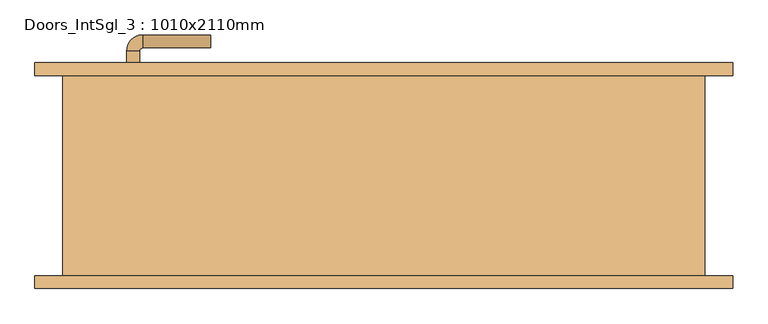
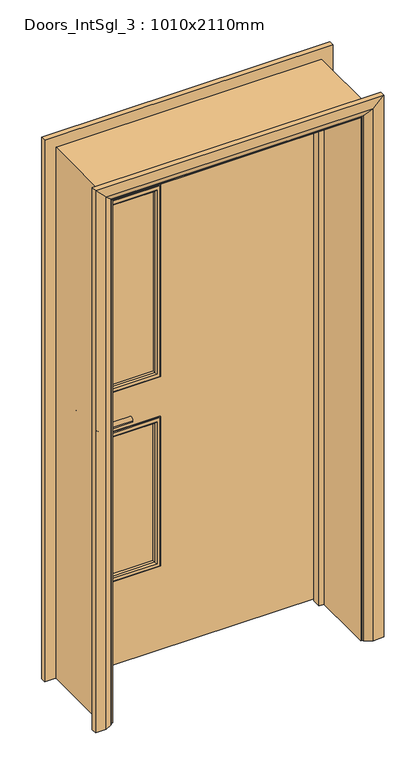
"""IFC4 building model written with IfcOpenShell, lengths in millimetres: door geometry, Doors_IntSgl_3 : 1010x2110mm."""

from ifc_helpers import new_model, si_unit, point, frame, frame_2d, origin, place, context, project, spatial, polyline, circle_curve, ellipse_curve, trimmed, segment, composite_curve, outline, extrude, faceted_brep, source, transform, mapped, element, save
from ifc_brep_helpers import plane_surface, cylinder_surface, revolved_surface, advanced_brep


def doors_intsgl_3_1010x2110mm_dd9fb0c2(model_context):
    return source(origin(), model_context, "Body", "SolidModel", [
        advanced_brep(
        [(-398.0, 109.0, 1000.0), (-378.0, 109.0, 1000.0), (-378.0, 79.0, 1000.0), (-398.0, 79.0, 1000.0), (-373.0, 74.0, 1000.0), (-373.0, 54.0, 1000.0), (-268.0, 54.0, 1000.0), (-268.0, 74.0, 1000.0)],
        [
            (0, 1, circle_curve(frame((-388.0, 109.0, 1000.0), z_axis=(0.0, 1.0, 0.0), x_axis=(1.0, 0.0, 0.0)), 10.0)),
            (1, 0, circle_curve(frame((-388.0, 109.0, 1000.0), z_axis=(0.0, 1.0, 0.0), x_axis=(1.0, 0.0, 0.0)), 10.0)),
            (1, 2),
            (2, 3, circle_curve(frame((-388.0, 79.0, 1000.0), z_axis=(0.0, 1.0, 0.0), x_axis=(1.0, 0.0, 0.0)), 10.0)),
            (3, 0),
            (3, 2, circle_curve(frame((-388.0, 79.0, 1000.0), z_axis=(0.0, 1.0, 0.0), x_axis=(1.0, 0.0, 0.0)), 10.0)),
            (4, 5, circle_curve(frame((-373.0, 64.0, 1000.0), z_axis=(-1.0, 0.0, 0.0), x_axis=(0.0, 1.0, 0.0)), 10.0)),
            (5, 3, circle_curve(frame((-373.0, 79.0, 1000.0), z_axis=(0.0, 0.0, -1.0), x_axis=(-1.0, 0.0, 0.0)), 25.0)),
            (2, 4, circle_curve(frame((-373.0, 79.0, 1000.0), z_axis=(0.0, 0.0, 1.0), x_axis=(-1.0, 0.0, 0.0)), 5.0)),
            (5, 4, circle_curve(frame((-373.0, 64.0, 1000.0), z_axis=(-1.0, 0.0, 0.0), x_axis=(0.0, 1.0, 0.0)), 10.0)),
            (6, 7, circle_curve(frame((-268.0, 64.0, 1000.0), z_axis=(1.0, 0.0, 0.0), x_axis=(0.0, 1.0, 0.0)), 10.0)),
            (7, 6, circle_curve(frame((-268.0, 64.0, 1000.0), z_axis=(1.0, 0.0, 0.0), x_axis=(0.0, 1.0, 0.0)), 10.0)),
            (4, 7),
            (6, 5),
        ],
        [
            plane_surface(frame((-388.0, 109.0, 1000.0), z_axis=(0.0, 1.0, 0.0), x_axis=(0.0, 0.0, 1.0))),
            cylinder_surface(frame((-388.0, 109.0, 1000.0), z_axis=(0.0, 1.0, 0.0), x_axis=(1.0, 0.0, 0.0)), 10.0),
            revolved_surface(trimmed(ellipse_curve(frame((-388.0, 79.0, 1000.0), z_axis=(0.0, -1.0, 0.0), x_axis=(1.0, 0.0, 0.0)), 10.0, 10.0), [point((-398.0, 79.0, 1000.0))], [point((-378.0, 79.0, 1000.0))], True, "CARTESIAN"), (-373.0, 79.0, 1000.0), (0.0, 0.0, -1.0)),
            revolved_surface(trimmed(ellipse_curve(frame((-388.0, 79.0, 1000.0), z_axis=(0.0, -1.0, 0.0), x_axis=(1.0, 0.0, 0.0)), 10.0, 10.0), [point((-378.0, 79.0, 1000.0))], [point((-398.0, 79.0, 1000.0))], True, "CARTESIAN"), (-373.0, 79.0, 1000.0), (0.0, 0.0, -1.0)),
            plane_surface(frame((-268.0, 64.0, 1000.0), z_axis=(1.0, 0.0, 0.0), x_axis=(0.0, 0.0, 1.0))),
            cylinder_surface(frame((-373.0, 64.0, 1000.0), z_axis=(-1.0, 0.0, 0.0), x_axis=(0.0, 1.0, 0.0)), 10.0),
        ],
        [
            (0, [[1, 2]]),
            (1, [[3, 4, 5, -2]]),
            (1, [[-5, 6, -3, -1]]),
            (2, [[7, 8, -4, 9]]),
            (3, [[10, -9, -6, -8]]),
            (4, [[11, 12]]),
            (5, [[13, -11, 14, -7]]),
            (5, [[-14, -12, -13, -10]]),
        ],
    ),
        extrude(outline(composite_curve([segment(trimmed(circle_curve(frame_2d((1000.0, -390.5)), 30.0), [point((1000.0, -420.5))], [point((1000.0, -360.5))], False, "CARTESIAN"), True, "CONTINUOUS"), segment(trimmed(circle_curve(frame_2d((1000.0, -390.5)), 30.0), [point((1000.0, -360.5))], [point((1000.0, -420.5))], False, "CARTESIAN"), True, "CONTINUOUS")], self_intersect=False)), frame((0.0, 109.0, 0.0), z_axis=(0.0, 1.0, 0.0), x_axis=(0.0, 0.0, 1.0)), (0.0, 0.0, 1.0), 8.0),
        advanced_brep(
        [(-398.0, 163.0, 1000.0), (-378.0, 163.0, 1000.0), (-398.0, 193.0, 1000.0), (-378.0, 193.0, 1000.0), (-373.0, 198.0, 1000.0), (-373.0, 218.0, 1000.0), (-268.0, 218.0, 1000.0), (-268.0, 198.0, 1000.0)],
        [
            (0, 1, circle_curve(frame((-388.0, 163.0, 1000.0), z_axis=(0.0, -1.0, 0.0), x_axis=(1.0, 0.0, 0.0)), 10.0)),
            (1, 0, circle_curve(frame((-388.0, 163.0, 1000.0), z_axis=(0.0, -1.0, 0.0), x_axis=(1.0, 0.0, 0.0)), 10.0)),
            (0, 2),
            (2, 3, circle_curve(frame((-388.0, 193.0, 1000.0), z_axis=(0.0, -1.0, 0.0), x_axis=(1.0, 0.0, 0.0)), 10.0)),
            (3, 1),
            (3, 2, circle_curve(frame((-388.0, 193.0, 1000.0), z_axis=(0.0, -1.0, 0.0), x_axis=(1.0, 0.0, 0.0)), 10.0)),
            (4, 3, circle_curve(frame((-373.0, 193.0, 1000.0), z_axis=(0.0, 0.0, 1.0), x_axis=(-1.0, 0.0, 0.0)), 5.0)),
            (2, 5, circle_curve(frame((-373.0, 193.0, 1000.0), z_axis=(0.0, 0.0, -1.0), x_axis=(-1.0, 0.0, 0.0)), 25.0)),
            (5, 4, circle_curve(frame((-373.0, 208.0, 1000.0), z_axis=(-1.0, 0.0, 0.0), x_axis=(0.0, -1.0, 0.0)), 10.0)),
            (4, 5, circle_curve(frame((-373.0, 208.0, 1000.0), z_axis=(-1.0, 0.0, 0.0), x_axis=(0.0, -1.0, 0.0)), 10.0)),
            (6, 7, circle_curve(frame((-268.0, 208.0, 1000.0), z_axis=(1.0, 0.0, 0.0), x_axis=(0.0, -1.0, 0.0)), 10.0)),
            (7, 6, circle_curve(frame((-268.0, 208.0, 1000.0), z_axis=(1.0, 0.0, 0.0), x_axis=(0.0, -1.0, 0.0)), 10.0)),
            (5, 6),
            (7, 4),
        ],
        [
            plane_surface(frame((-388.0, 163.0, 1000.0), z_axis=(0.0, -1.0, 0.0), x_axis=(0.0, 0.0, 1.0))),
            cylinder_surface(frame((-388.0, 163.0, 1000.0), z_axis=(0.0, -1.0, 0.0), x_axis=(1.0, 0.0, 0.0)), 10.0),
            revolved_surface(trimmed(ellipse_curve(frame((-388.0, 193.0, 1000.0), z_axis=(0.0, -1.0, 0.0), x_axis=(1.0, 0.0, 0.0)), 10.0, 10.0), [point((-398.0, 193.0, 1000.0))], [point((-378.0, 193.0, 1000.0))], True, "CARTESIAN"), (-373.0, 193.0, 1000.0), (0.0, 0.0, -1.0)),
            revolved_surface(trimmed(ellipse_curve(frame((-388.0, 193.0, 1000.0), z_axis=(0.0, -1.0, 0.0), x_axis=(1.0, 0.0, 0.0)), 10.0, 10.0), [point((-378.0, 193.0, 1000.0))], [point((-398.0, 193.0, 1000.0))], True, "CARTESIAN"), (-373.0, 193.0, 1000.0), (0.0, 0.0, -1.0)),
            plane_surface(frame((-268.0, 208.0, 1000.0), z_axis=(1.0, 0.0, 0.0), x_axis=(0.0, 0.0, 1.0))),
            cylinder_surface(frame((-373.0, 208.0, 1000.0), z_axis=(-1.0, 0.0, 0.0), x_axis=(0.0, -1.0, 0.0)), 10.0),
        ],
        [
            (0, [[1, 2]]),
            (1, [[-1, 3, 4, 5]]),
            (1, [[-2, -5, 6, -3]]),
            (2, [[7, -4, 8, 9]]),
            (3, [[-8, -6, -7, 10]]),
            (4, [[11, 12]]),
            (5, [[-9, 13, -12, 14]]),
            (5, [[-10, -14, -11, -13]]),
        ],
    ),
        extrude(outline(composite_curve([segment(trimmed(circle_curve(frame_2d((1000.0, -390.5)), 30.0), [point((1000.0, -420.5))], [point((1000.0, -360.5))], False, "CARTESIAN"), True, "CONTINUOUS"), segment(trimmed(circle_curve(frame_2d((1000.0, -390.5)), 30.0), [point((1000.0, -360.5))], [point((1000.0, -420.5))], False, "CARTESIAN"), True, "CONTINUOUS")], self_intersect=False)), frame((0.0, 155.0, 0.0), z_axis=(0.0, 1.0, 0.0), x_axis=(0.0, 0.0, 1.0)), (0.0, 0.0, 1.0), 8.0),
        extrude(outline(polyline([(2068.0, -463.0), (8.0, -463.0), (8.0, 463.0), (2068.0, 463.0), (2068.0, -463.0)]), holes=[polyline([(1843.0, -138.0), (1100.0, -138.0), (1100.0, -338.0), (1843.0, -338.0), (1843.0, -138.0)]), polyline([(925.0, -338.0), (925.0, -138.0), (350.0, -138.0), (350.0, -338.0), (925.0, -338.0)])]), frame((0.0, 117.0, 0.0), z_axis=(0.0, 1.0, 0.0), x_axis=(0.0, 0.0, 1.0)), (0.0, 0.0, 1.0), 38.0),
        advanced_brep(
        [(540.0, 175.0, 0.0), (540.0, 155.0, 0.0), (470.0, 155.0, 0.0), (474.0, 161.0, 0.0), (500.0, 175.0, 0.0), (540.0, 175.0, 2145.0), (540.0, 155.0, 2145.0), (-540.0, 155.0, 2145.0), (-540.0, 155.0, 0.0), (-470.0, 155.0, 0.0), (-470.0, 155.0, 2075.0), (470.0, 155.0, 2075.0), (474.0, 161.0, 2079.0), (500.0, 175.0, 2105.0), (-500.0, 175.0, 2105.0), (-500.0, 175.0, 0.0), (-540.0, 175.0, 0.0), (-540.0, 175.0, 2145.0), (-474.0, 161.0, 0.0), (-474.0, 161.0, 2079.0)],
        [
            (0, 1),
            (1, 2),
            (2, 3, circle_curve(frame((478.0, 154.0, 0.0), z_axis=(0.0, 0.0, -1.0), x_axis=(1.0, 0.0, 0.0)), 8.0622577)),
            (3, 4),
            (4, 0),
            (0, 5),
            (5, 6),
            (6, 1),
            (6, 7),
            (7, 8),
            (8, 9),
            (9, 10),
            (10, 11),
            (11, 2),
            (11, 12, ellipse_curve(frame((478.0, 154.0, 2083.0), z_axis=(0.7071067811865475, 0.0, -0.7071067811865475), x_axis=(-0.7071067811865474, 0.0, -0.7071067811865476)), 11.4017543, 8.0622577)),
            (12, 3),
            (12, 13),
            (13, 4),
            (13, 14),
            (14, 15),
            (15, 16),
            (16, 17),
            (17, 5),
            (7, 17),
            (16, 8),
            (15, 18),
            (18, 9, circle_curve(frame((-478.0, 154.0, 0.0), z_axis=(0.0, 0.0, -1.0), x_axis=(-1.0, 0.0, 0.0)), 8.0622577)),
            (19, 10, ellipse_curve(frame((-478.0, 154.0, 2083.0), z_axis=(-0.7071067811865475, 0.0, -0.7071067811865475), x_axis=(-0.7071067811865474, 0.0, 0.7071067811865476)), 11.4017543, 8.0622577)),
            (18, 19),
            (14, 19),
            (19, 12),
        ],
        [
            plane_surface(frame((470.0, 155.0, 0.0), z_axis=(0.0, 0.0, -1.0), x_axis=(0.0, -1.0, 0.0))),
            plane_surface(frame((540.0, 175.0, 0.0), z_axis=(1.0, 0.0, 0.0), x_axis=(0.0, 0.0, 1.0))),
            plane_surface(frame((540.0, 155.0, 0.0), z_axis=(0.0, -1.0, 0.0), x_axis=(0.0, 0.0, 1.0))),
            cylinder_surface(frame((478.0, 154.0, 0.0), z_axis=(0.0, 0.0, -1.0), x_axis=(1.0, 0.0, 0.0)), 8.0622577),
            plane_surface(frame((474.0, 161.0, 0.0), z_axis=(-0.4740998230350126, 0.8804710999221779, 0.0), x_axis=(0.0, 0.0, 1.0))),
            plane_surface(frame((500.0, 175.0, 0.0), z_axis=(0.0, 1.0, 0.0), x_axis=(0.0, 0.0, 1.0))),
            plane_surface(frame((-540.0, 175.0, 2145.0), z_axis=(-1.0, 0.0, 0.0), x_axis=(0.0, 0.0, -1.0))),
            plane_surface(frame((-470.0, 155.0, 0.0), z_axis=(0.0, 0.0, -1.0), x_axis=(0.0, -1.0, 0.0))),
            cylinder_surface(frame((-478.0, 154.0, 2075.0), z_axis=(0.0, 0.0, 1.0), x_axis=(-1.0, 0.0, 0.0)), 8.0622577),
            plane_surface(frame((-474.0, 161.0, 2079.0), z_axis=(0.4740998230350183, 0.8804710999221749, 0.0), x_axis=(0.0, 0.0, -1.0))),
            plane_surface(frame((540.0, 175.0, 2145.0), z_axis=(0.0, 0.0, 1.0), x_axis=(-1.0, 0.0, 0.0))),
            cylinder_surface(frame((470.0, 154.0, 2083.0), z_axis=(1.0, 0.0, 0.0), x_axis=(0.0, 0.0, 1.0)), 8.0622577),
            plane_surface(frame((474.0, 161.0, 2079.0), z_axis=(0.0, 0.8804710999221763, -0.4740998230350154), x_axis=(-1.0, 0.0, 0.0))),
        ],
        [
            (0, [[1, 2, 3, 4, 5]]),
            (1, [[-1, 6, 7, 8]]),
            (2, [[-2, -8, 9, 10, 11, 12, 13, 14]]),
            (3, [[-3, -14, 15, 16]]),
            (4, [[-4, -16, 17, 18]]),
            (5, [[-5, -18, 19, 20, 21, 22, 23, -6]]),
            (6, [[24, -22, 25, -10]]),
            (7, [[-21, 26, 27, -11, -25]]),
            (8, [[28, -12, -27, 29]]),
            (9, [[30, -29, -26, -20]]),
            (10, [[-7, -23, -24, -9]]),
            (11, [[-15, -13, -28, 31]]),
            (12, [[-17, -31, -30, -19]]),
        ],
    ),
        extrude(outline(polyline([(0.0, -465.0), (0.0, -446.0), (2051.0, -446.0), (2051.0, 446.0), (0.0, 446.0), (0.0, 465.0), (2070.0, 465.0), (2070.0, -465.0), (0.0, -465.0)])), frame((0.0, 83.0, 0.0), z_axis=(0.0, 1.0, 0.0), x_axis=(0.0, 0.0, 1.0)), (0.0, 0.0, 1.0), 32.0),
        advanced_brep(
        [(-540.0, -175.0, 0.0), (-540.0, -155.0, 0.0), (-470.0, -155.0, 0.0), (-474.0, -161.0, 0.0), (-500.0, -175.0, 0.0), (-540.0, -175.0, 2145.0), (-540.0, -155.0, 2145.0), (-470.0, -155.0, 2075.0), (-474.0, -161.0, 2079.0), (-500.0, -175.0, 2105.0), (540.0, -175.0, 0.0), (500.0, -175.0, 0.0), (474.0, -161.0, 0.0), (470.0, -155.0, 0.0), (540.0, -155.0, 0.0), (540.0, -175.0, 2145.0), (500.0, -175.0, 2105.0), (474.0, -161.0, 2079.0), (470.0, -155.0, 2075.0), (540.0, -155.0, 2145.0)],
        [
            (0, 1),
            (1, 2),
            (2, 3, circle_curve(frame((-478.0, -154.0, 0.0), z_axis=(0.0, 0.0, -1.0), x_axis=(-1.0, 0.0, 0.0)), 8.0622577)),
            (3, 4),
            (4, 0),
            (0, 5),
            (5, 6),
            (6, 1),
            (6, 7),
            (7, 2),
            (7, 8, ellipse_curve(frame((-478.0, -154.0, 2083.0), z_axis=(-0.7071067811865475, 0.0, -0.7071067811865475), x_axis=(0.7071067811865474, 0.0, -0.7071067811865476)), 11.4017543, 8.0622577)),
            (8, 3),
            (8, 9),
            (9, 4),
            (9, 5),
            (10, 11),
            (11, 12),
            (12, 13, circle_curve(frame((478.0, -154.0, 0.0), z_axis=(0.0, 0.0, -1.0), x_axis=(1.0, 0.0, 0.0)), 8.0622577)),
            (13, 14),
            (14, 10),
            (15, 16),
            (16, 11),
            (10, 15),
            (16, 17),
            (17, 12),
            (17, 18, ellipse_curve(frame((478.0, -154.0, 2083.0), z_axis=(0.7071067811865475, 0.0, -0.7071067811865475), x_axis=(0.7071067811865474, 0.0, 0.7071067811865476)), 11.4017543, 8.0622577)),
            (18, 13),
            (18, 19),
            (19, 14),
            (19, 15),
            (5, 15),
            (19, 6),
            (18, 7),
            (17, 8),
            (16, 9),
        ],
        [
            plane_surface(frame((-470.0, -227.8010989, 0.0), z_axis=(0.0, 0.0, -1.0), x_axis=(1.0, 0.0, 0.0))),
            plane_surface(frame((-540.0, -175.0, 0.0), z_axis=(-1.0, 0.0, 0.0), x_axis=(0.0, 0.0, 1.0))),
            plane_surface(frame((-540.0, -155.0, 0.0), z_axis=(0.0, 1.0, 0.0), x_axis=(0.0, 0.0, 1.0))),
            cylinder_surface(frame((-478.0, -154.0, 0.0), z_axis=(0.0, 0.0, -1.0), x_axis=(-1.0, 0.0, 0.0)), 8.0622577),
            plane_surface(frame((-474.0, -161.0, 0.0), z_axis=(0.4740998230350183, -0.8804710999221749, 0.0), x_axis=(0.0, 0.0, 1.0))),
            plane_surface(frame((-500.0, -175.0, 0.0), z_axis=(0.0, -1.0, 0.0), x_axis=(0.0, 0.0, 1.0))),
            plane_surface(frame((470.0, -227.8010989, 0.0), z_axis=(0.0, 0.0, -1.0), x_axis=(-1.0, 0.0, 0.0))),
            plane_surface(frame((500.0, -175.0, 2105.0), z_axis=(0.0, -1.0, 0.0), x_axis=(0.0, 0.0, -1.0))),
            plane_surface(frame((474.0, -161.0, 2079.0), z_axis=(-0.4740998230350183, -0.8804710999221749, 0.0), x_axis=(0.0, 0.0, -1.0))),
            cylinder_surface(frame((478.0, -154.0, 2075.0), z_axis=(0.0, 0.0, 1.0), x_axis=(1.0, 0.0, 0.0)), 8.0622577),
            plane_surface(frame((540.0, -155.0, 2145.0), z_axis=(0.0, 1.0, 0.0), x_axis=(0.0, 0.0, -1.0))),
            plane_surface(frame((540.0, -175.0, 2145.0), z_axis=(1.0, 0.0, 0.0), x_axis=(0.0, 0.0, -1.0))),
            plane_surface(frame((-540.0, -175.0, 2145.0), z_axis=(0.0, 0.0, 1.0), x_axis=(1.0, 0.0, 0.0))),
            plane_surface(frame((-540.0, -155.0, 2145.0), z_axis=(0.0, 1.0, 0.0), x_axis=(1.0, 0.0, 0.0))),
            cylinder_surface(frame((-470.0, -154.0, 2083.0), z_axis=(-1.0, 0.0, 0.0), x_axis=(0.0, 0.0, 1.0)), 8.0622577),
            plane_surface(frame((-474.0, -161.0, 2079.0), z_axis=(0.0, -0.8804710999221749, -0.4740998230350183), x_axis=(1.0, 0.0, 0.0))),
            plane_surface(frame((-500.0, -175.0, 2105.0), z_axis=(0.0, -1.0, 0.0), x_axis=(1.0, 0.0, 0.0))),
        ],
        [
            (0, [[1, 2, 3, 4, 5]]),
            (1, [[-1, 6, 7, 8]]),
            (2, [[-2, -8, 9, 10]]),
            (3, [[-3, -10, 11, 12]]),
            (4, [[-4, -12, 13, 14]]),
            (5, [[-5, -14, 15, -6]]),
            (6, [[16, 17, 18, 19, 20]]),
            (7, [[21, 22, -16, 23]]),
            (8, [[24, 25, -17, -22]]),
            (9, [[26, 27, -18, -25]]),
            (10, [[28, 29, -19, -27]]),
            (11, [[30, -23, -20, -29]]),
            (12, [[-7, 31, -30, 32]]),
            (13, [[-9, -32, -28, 33]]),
            (14, [[-11, -33, -26, 34]]),
            (15, [[-13, -34, -24, 35]]),
            (16, [[-15, -35, -21, -31]]),
        ],
    ),
        faceted_brep([(-465.0, 155.0, 0.0), (-465.0, -155.0, 0.0), (-497.0, -155.0, 0.0), (-497.0, 155.0, 0.0), (-465.0, 155.0, 2070.0), (-465.0, -155.0, 2070.0), (-497.0, -155.0, 2102.0), (-497.0, 155.0, 2102.0), (465.0, 155.0, 0.0), (497.0, 155.0, 0.0), (497.0, -155.0, 0.0), (465.0, -155.0, 0.0), (465.0, 155.0, 2070.0), (497.0, 155.0, 2102.0), (497.0, -155.0, 2102.0), (465.0, -155.0, 2070.0)], [[[0, 1, 2, 3]], [[1, 0, 4, 5]], [[2, 1, 5, 6]], [[3, 2, 6, 7]], [[0, 3, 7, 4]], [[8, 9, 10, 11]], [[12, 13, 9, 8]], [[13, 14, 10, 9]], [[14, 15, 11, 10]], [[15, 12, 8, 11]], [[5, 4, 12, 15]], [[6, 5, 15, 14]], [[7, 6, 14, 13]], [[4, 7, 13, 12]]]),
        advanced_brep(
        [(-138.0, 127.0, 925.0), (-138.0, 117.0, 925.0), (-138.0, 117.0, 350.0), (-138.0, 127.0, 350.0), (-150.0, 116.0, 913.0), (-150.0, 127.0, 913.0), (-150.0, 127.0, 362.0), (-150.0, 116.0, 362.0), (-145.0, 111.0, 918.0), (-145.0, 111.0, 357.0), (-130.0, 113.0, 933.0), (-132.0, 111.0, 931.0), (-132.0, 111.0, 344.0), (-130.0, 113.0, 342.0), (-130.0, 117.0, 933.0), (-130.0, 117.0, 342.0), (-338.0, 117.0, 350.0), (-338.0, 127.0, 350.0), (-326.0, 127.0, 362.0), (-326.0, 116.0, 362.0), (-331.0, 111.0, 357.0), (-344.0, 111.0, 344.0), (-346.0, 113.0, 342.0), (-346.0, 117.0, 342.0), (-338.0, 117.0, 925.0), (-338.0, 127.0, 925.0), (-326.0, 127.0, 913.0), (-326.0, 116.0, 913.0), (-331.0, 111.0, 918.0), (-344.0, 111.0, 931.0), (-346.0, 113.0, 933.0), (-346.0, 117.0, 933.0)],
        [
            (0, 1),
            (1, 2),
            (2, 3),
            (3, 0),
            (4, 5),
            (5, 6),
            (6, 7),
            (7, 4),
            (8, 4, ellipse_curve(frame((-145.0, 116.0, 918.0), z_axis=(0.7071067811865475, 0.0, -0.7071067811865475), x_axis=(0.7071067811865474, 0.0, 0.7071067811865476)), 7.0710678, 5.0)),
            (7, 9, ellipse_curve(frame((-145.0, 116.0, 357.0), z_axis=(0.7071067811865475, 0.0, 0.7071067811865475), x_axis=(-0.7071067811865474, 0.0, 0.7071067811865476)), 7.0710678, 5.0)),
            (9, 8),
            (10, 11, ellipse_curve(frame((-132.0, 113.0, 931.0), z_axis=(0.7071067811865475, 0.0, -0.7071067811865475), x_axis=(0.7071067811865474, 0.0, 0.7071067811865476)), 2.8284271, 2.0)),
            (11, 12),
            (12, 13, ellipse_curve(frame((-132.0, 113.0, 344.0), z_axis=(0.7071067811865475, 0.0, 0.7071067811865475), x_axis=(-0.7071067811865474, 0.0, 0.7071067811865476)), 2.8284271, 2.0)),
            (13, 10),
            (14, 10),
            (13, 15),
            (15, 14),
            (2, 16),
            (16, 17),
            (17, 3),
            (6, 18),
            (18, 19),
            (19, 7),
            (19, 20, ellipse_curve(frame((-331.0, 116.0, 357.0), z_axis=(0.7071067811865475, 0.0, -0.7071067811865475), x_axis=(0.7071067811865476, 0.0, 0.7071067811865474)), 7.0710678, 5.0)),
            (20, 9),
            (12, 21),
            (21, 22, ellipse_curve(frame((-344.0, 113.0, 344.0), z_axis=(0.7071067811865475, 0.0, -0.7071067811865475), x_axis=(0.7071067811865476, 0.0, 0.7071067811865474)), 2.8284271, 2.0)),
            (22, 13),
            (22, 23),
            (23, 15),
            (16, 24),
            (24, 25),
            (25, 17),
            (18, 26),
            (26, 27),
            (27, 19),
            (27, 28, ellipse_curve(frame((-331.0, 116.0, 918.0), z_axis=(-0.7071067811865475, 0.0, -0.7071067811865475), x_axis=(0.7071067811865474, 0.0, -0.7071067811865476)), 7.0710678, 5.0)),
            (28, 20),
            (21, 29),
            (29, 30, ellipse_curve(frame((-344.0, 113.0, 931.0), z_axis=(-0.7071067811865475, 0.0, -0.7071067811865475), x_axis=(0.7071067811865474, 0.0, -0.7071067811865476)), 2.8284271, 2.0)),
            (30, 22),
            (30, 31),
            (31, 23),
            (31, 14),
            (1, 24),
            (0, 25),
            (5, 26),
            (4, 27),
            (8, 28),
            (11, 29),
            (10, 30),
        ],
        [
            plane_surface(frame((-138.0, 117.0, 925.0), z_axis=(1.0, 0.0, 0.0), x_axis=(0.0, 0.0, -1.0))),
            plane_surface(frame((-150.0, 127.0, 913.0), z_axis=(-1.0, 0.0, 0.0), x_axis=(0.0, 0.0, -1.0))),
            cylinder_surface(frame((-145.0, 116.0, 925.0), z_axis=(0.0, 0.0, 1.0), x_axis=(1.0, 0.0, 0.0)), 5.0),
            cylinder_surface(frame((-132.0, 113.0, 925.0), z_axis=(0.0, 0.0, 1.0), x_axis=(1.0, 0.0, 0.0)), 2.0),
            plane_surface(frame((-130.0, 113.0, 933.0), z_axis=(1.0, 0.0, 0.0), x_axis=(0.0, 0.0, -1.0))),
            plane_surface(frame((-138.0, 117.0, 350.0), z_axis=(0.0, 0.0, -1.0), x_axis=(-1.0, 0.0, 0.0))),
            plane_surface(frame((-150.0, 127.0, 362.0), z_axis=(0.0, 0.0, 1.0), x_axis=(-1.0, 0.0, 0.0))),
            cylinder_surface(frame((-138.0, 116.0, 357.0), z_axis=(1.0, 0.0, 0.0), x_axis=(0.0, 0.0, -1.0)), 5.0),
            cylinder_surface(frame((-138.0, 113.0, 344.0), z_axis=(1.0, 0.0, 0.0), x_axis=(0.0, 0.0, -1.0)), 2.0),
            plane_surface(frame((-130.0, 113.0, 342.0), z_axis=(0.0, 0.0, -1.0), x_axis=(-1.0, 0.0, 0.0))),
            plane_surface(frame((-338.0, 117.0, 350.0), z_axis=(-1.0, 0.0, 0.0), x_axis=(0.0, 0.0, 1.0))),
            plane_surface(frame((-326.0, 127.0, 362.0), z_axis=(1.0, 0.0, 0.0), x_axis=(0.0, 0.0, 1.0))),
            cylinder_surface(frame((-331.0, 116.0, 350.0), z_axis=(0.0, 0.0, -1.0), x_axis=(-1.0, 0.0, 0.0)), 5.0),
            cylinder_surface(frame((-344.0, 113.0, 350.0), z_axis=(0.0, 0.0, -1.0), x_axis=(-1.0, 0.0, 0.0)), 2.0),
            plane_surface(frame((-346.0, 113.0, 342.0), z_axis=(-1.0, 0.0, 0.0), x_axis=(0.0, 0.0, 1.0))),
            plane_surface(frame((-346.0, 117.0, 933.0), z_axis=(0.0, 1.0, 0.0), x_axis=(1.0, 0.0, 0.0))),
            plane_surface(frame((-338.0, 117.0, 925.0), z_axis=(0.0, 0.0, 1.0), x_axis=(1.0, 0.0, 0.0))),
            plane_surface(frame((-338.0, 127.0, 925.0), z_axis=(0.0, 1.0, 0.0), x_axis=(1.0, 0.0, 0.0))),
            plane_surface(frame((-326.0, 127.0, 913.0), z_axis=(0.0, 0.0, -1.0), x_axis=(1.0, 0.0, 0.0))),
            cylinder_surface(frame((-338.0, 116.0, 918.0), z_axis=(-1.0, 0.0, 0.0), x_axis=(0.0, 0.0, 1.0)), 5.0),
            plane_surface(frame((-331.0, 111.0, 918.0), z_axis=(0.0, -1.0, 0.0), x_axis=(1.0, 0.0, 0.0))),
            cylinder_surface(frame((-338.0, 113.0, 931.0), z_axis=(-1.0, 0.0, 0.0), x_axis=(0.0, 0.0, 1.0)), 2.0),
            plane_surface(frame((-346.0, 113.0, 933.0), z_axis=(0.0, 0.0, 1.0), x_axis=(1.0, 0.0, 0.0))),
        ],
        [
            (0, [[1, 2, 3, 4]]),
            (1, [[5, 6, 7, 8]]),
            (2, [[9, -8, 10, 11]]),
            (3, [[12, 13, 14, 15]]),
            (4, [[16, -15, 17, 18]]),
            (5, [[-3, 19, 20, 21]]),
            (6, [[-7, 22, 23, 24]]),
            (7, [[-10, -24, 25, 26]]),
            (8, [[-14, 27, 28, 29]]),
            (9, [[-17, -29, 30, 31]]),
            (10, [[-20, 32, 33, 34]]),
            (11, [[-23, 35, 36, 37]]),
            (12, [[-25, -37, 38, 39]]),
            (13, [[-28, 40, 41, 42]]),
            (14, [[-30, -42, 43, 44]]),
            (15, [[-31, -44, 45, -18], [46, -32, -19, -2]]),
            (16, [[-33, -46, -1, 47]]),
            (17, [[-21, -34, -47, -4], [48, -35, -22, -6]]),
            (18, [[-36, -48, -5, 49]]),
            (19, [[-38, -49, -9, 50]]),
            (20, [[51, -40, -27, -13], [-26, -39, -50, -11]]),
            (21, [[-41, -51, -12, 52]]),
            (22, [[-43, -52, -16, -45]]),
        ],
    ),
        advanced_brep(
        [(-338.0, 145.0, 925.0), (-338.0, 155.0, 925.0), (-338.0, 155.0, 350.0), (-338.0, 145.0, 350.0), (-326.0, 156.0, 913.0), (-326.0, 145.0, 913.0), (-326.0, 145.0, 362.0), (-326.0, 156.0, 362.0), (-331.0, 161.0, 918.0), (-331.0, 161.0, 357.0), (-346.0, 159.0, 933.0), (-344.0, 161.0, 931.0), (-344.0, 161.0, 344.0), (-346.0, 159.0, 342.0), (-346.0, 155.0, 933.0), (-346.0, 155.0, 342.0), (-138.0, 155.0, 350.0), (-138.0, 145.0, 350.0), (-150.0, 145.0, 362.0), (-150.0, 156.0, 362.0), (-145.0, 161.0, 357.0), (-132.0, 161.0, 344.0), (-130.0, 159.0, 342.0), (-130.0, 155.0, 342.0), (-138.0, 155.0, 925.0), (-138.0, 145.0, 925.0), (-150.0, 145.0, 913.0), (-150.0, 156.0, 913.0), (-145.0, 161.0, 918.0), (-132.0, 161.0, 931.0), (-130.0, 159.0, 933.0), (-130.0, 155.0, 933.0)],
        [
            (0, 1),
            (1, 2),
            (2, 3),
            (3, 0),
            (4, 5),
            (5, 6),
            (6, 7),
            (7, 4),
            (8, 4, ellipse_curve(frame((-331.0, 156.0, 918.0), z_axis=(-0.7071067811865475, 0.0, -0.7071067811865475), x_axis=(-0.7071067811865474, 0.0, 0.7071067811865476)), 7.0710678, 5.0)),
            (7, 9, ellipse_curve(frame((-331.0, 156.0, 357.0), z_axis=(-0.7071067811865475, 0.0, 0.7071067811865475), x_axis=(0.7071067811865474, 0.0, 0.7071067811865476)), 7.0710678, 5.0)),
            (9, 8),
            (10, 11, ellipse_curve(frame((-344.0, 159.0, 931.0), z_axis=(-0.7071067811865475, 0.0, -0.7071067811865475), x_axis=(-0.7071067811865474, 0.0, 0.7071067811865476)), 2.8284271, 2.0)),
            (11, 12),
            (12, 13, ellipse_curve(frame((-344.0, 159.0, 344.0), z_axis=(-0.7071067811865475, 0.0, 0.7071067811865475), x_axis=(0.7071067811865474, 0.0, 0.7071067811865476)), 2.8284271, 2.0)),
            (13, 10),
            (14, 10),
            (13, 15),
            (15, 14),
            (2, 16),
            (16, 17),
            (17, 3),
            (6, 18),
            (18, 19),
            (19, 7),
            (19, 20, ellipse_curve(frame((-145.0, 156.0, 357.0), z_axis=(-0.7071067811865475, 0.0, -0.7071067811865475), x_axis=(-0.7071067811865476, 0.0, 0.7071067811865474)), 7.0710678, 5.0)),
            (20, 9),
            (12, 21),
            (21, 22, ellipse_curve(frame((-132.0, 159.0, 344.0), z_axis=(-0.7071067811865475, 0.0, -0.7071067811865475), x_axis=(-0.7071067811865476, 0.0, 0.7071067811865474)), 2.8284271, 2.0)),
            (22, 13),
            (22, 23),
            (23, 15),
            (16, 24),
            (24, 25),
            (25, 17),
            (18, 26),
            (26, 27),
            (27, 19),
            (27, 28, ellipse_curve(frame((-145.0, 156.0, 918.0), z_axis=(0.7071067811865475, 0.0, -0.7071067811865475), x_axis=(-0.7071067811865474, 0.0, -0.7071067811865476)), 7.0710678, 5.0)),
            (28, 20),
            (21, 29),
            (29, 30, ellipse_curve(frame((-132.0, 159.0, 931.0), z_axis=(0.7071067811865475, 0.0, -0.7071067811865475), x_axis=(-0.7071067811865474, 0.0, -0.7071067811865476)), 2.8284271, 2.0)),
            (30, 22),
            (30, 31),
            (31, 23),
            (31, 14),
            (1, 24),
            (0, 25),
            (5, 26),
            (4, 27),
            (8, 28),
            (11, 29),
            (10, 30),
        ],
        [
            plane_surface(frame((-338.0, 155.0, 925.0), z_axis=(-1.0, 0.0, 0.0), x_axis=(0.0, 0.0, -1.0))),
            plane_surface(frame((-326.0, 145.0, 913.0), z_axis=(1.0, 0.0, 0.0), x_axis=(0.0, 0.0, -1.0))),
            cylinder_surface(frame((-331.0, 156.0, 925.0), z_axis=(0.0, 0.0, 1.0), x_axis=(-1.0, 0.0, 0.0)), 5.0),
            cylinder_surface(frame((-344.0, 159.0, 925.0), z_axis=(0.0, 0.0, 1.0), x_axis=(-1.0, 0.0, 0.0)), 2.0),
            plane_surface(frame((-346.0, 159.0, 933.0), z_axis=(-1.0, 0.0, 0.0), x_axis=(0.0, 0.0, -1.0))),
            plane_surface(frame((-338.0, 155.0, 350.0), z_axis=(0.0, 0.0, -1.0), x_axis=(1.0, 0.0, 0.0))),
            plane_surface(frame((-326.0, 145.0, 362.0), z_axis=(0.0, 0.0, 1.0), x_axis=(1.0, 0.0, 0.0))),
            cylinder_surface(frame((-338.0, 156.0, 357.0), z_axis=(-1.0, 0.0, 0.0), x_axis=(0.0, 0.0, -1.0)), 5.0),
            cylinder_surface(frame((-338.0, 159.0, 344.0), z_axis=(-1.0, 0.0, 0.0), x_axis=(0.0, 0.0, -1.0)), 2.0),
            plane_surface(frame((-346.0, 159.0, 342.0), z_axis=(0.0, 0.0, -1.0), x_axis=(1.0, 0.0, 0.0))),
            plane_surface(frame((-138.0, 155.0, 350.0), z_axis=(1.0, 0.0, 0.0), x_axis=(0.0, 0.0, 1.0))),
            plane_surface(frame((-150.0, 145.0, 362.0), z_axis=(-1.0, 0.0, 0.0), x_axis=(0.0, 0.0, 1.0))),
            cylinder_surface(frame((-145.0, 156.0, 350.0), z_axis=(0.0, 0.0, -1.0), x_axis=(1.0, 0.0, 0.0)), 5.0),
            cylinder_surface(frame((-132.0, 159.0, 350.0), z_axis=(0.0, 0.0, -1.0), x_axis=(1.0, 0.0, 0.0)), 2.0),
            plane_surface(frame((-130.0, 159.0, 342.0), z_axis=(1.0, 0.0, 0.0), x_axis=(0.0, 0.0, 1.0))),
            plane_surface(frame((-130.0, 155.0, 933.0), z_axis=(0.0, -1.0, 0.0), x_axis=(-1.0, 0.0, 0.0))),
            plane_surface(frame((-138.0, 155.0, 925.0), z_axis=(0.0, 0.0, 1.0), x_axis=(-1.0, 0.0, 0.0))),
            plane_surface(frame((-138.0, 145.0, 925.0), z_axis=(0.0, -1.0, 0.0), x_axis=(-1.0, 0.0, 0.0))),
            plane_surface(frame((-150.0, 145.0, 913.0), z_axis=(0.0, 0.0, -1.0), x_axis=(-1.0, 0.0, 0.0))),
            cylinder_surface(frame((-138.0, 156.0, 918.0), z_axis=(1.0, 0.0, 0.0), x_axis=(0.0, 0.0, 1.0)), 5.0),
            plane_surface(frame((-145.0, 161.0, 918.0), z_axis=(0.0, 1.0, 0.0), x_axis=(-1.0, 0.0, 0.0))),
            cylinder_surface(frame((-138.0, 159.0, 931.0), z_axis=(1.0, 0.0, 0.0), x_axis=(0.0, 0.0, 1.0)), 2.0),
            plane_surface(frame((-130.0, 159.0, 933.0), z_axis=(0.0, 0.0, 1.0), x_axis=(-1.0, 0.0, 0.0))),
        ],
        [
            (0, [[1, 2, 3, 4]]),
            (1, [[5, 6, 7, 8]]),
            (2, [[9, -8, 10, 11]]),
            (3, [[12, 13, 14, 15]]),
            (4, [[16, -15, 17, 18]]),
            (5, [[-3, 19, 20, 21]]),
            (6, [[-7, 22, 23, 24]]),
            (7, [[-10, -24, 25, 26]]),
            (8, [[-14, 27, 28, 29]]),
            (9, [[-17, -29, 30, 31]]),
            (10, [[-20, 32, 33, 34]]),
            (11, [[-23, 35, 36, 37]]),
            (12, [[-25, -37, 38, 39]]),
            (13, [[-28, 40, 41, 42]]),
            (14, [[-30, -42, 43, 44]]),
            (15, [[-31, -44, 45, -18], [46, -32, -19, -2]]),
            (16, [[-33, -46, -1, 47]]),
            (17, [[-21, -34, -47, -4], [48, -35, -22, -6]]),
            (18, [[-36, -48, -5, 49]]),
            (19, [[-38, -49, -9, 50]]),
            (20, [[51, -40, -27, -13], [-26, -39, -50, -11]]),
            (21, [[-41, -51, -12, 52]]),
            (22, [[-43, -52, -16, -45]]),
        ],
    ),
        extrude(outline(polyline([(-338.0, 145.0), (-138.0, 145.0), (-138.0, 127.0), (-338.0, 127.0), (-338.0, 145.0)])), frame((0.0, 0.0, 1100.0), z_axis=(0.0, 0.0, 1.0), x_axis=(1.0, 0.0, 0.0)), (0.0, 0.0, 1.0), 743.0),
        extrude(outline(polyline([(-338.0, 145.0), (-138.0, 145.0), (-138.0, 127.0), (-338.0, 127.0), (-338.0, 145.0)])), frame((0.0, 0.0, 350.0), z_axis=(0.0, 0.0, 1.0), x_axis=(1.0, 0.0, 0.0)), (0.0, 0.0, 1.0), 575.0),
        advanced_brep(
        [(-138.0, 127.0, 1843.0), (-138.0, 117.0, 1843.0), (-138.0, 117.0, 1100.0), (-138.0, 127.0, 1100.0), (-150.0, 116.0, 1831.0), (-150.0, 127.0, 1831.0), (-150.0, 127.0, 1112.0), (-150.0, 116.0, 1112.0), (-145.0, 111.0, 1836.0), (-145.0, 111.0, 1107.0), (-130.0, 113.0, 1851.0), (-132.0, 111.0, 1849.0), (-132.0, 111.0, 1094.0), (-130.0, 113.0, 1092.0), (-130.0, 117.0, 1851.0), (-130.0, 117.0, 1092.0), (-338.0, 117.0, 1100.0), (-338.0, 127.0, 1100.0), (-326.0, 127.0, 1112.0), (-326.0, 116.0, 1112.0), (-331.0, 111.0, 1107.0), (-344.0, 111.0, 1094.0), (-346.0, 113.0, 1092.0), (-346.0, 117.0, 1092.0), (-338.0, 117.0, 1843.0), (-338.0, 127.0, 1843.0), (-326.0, 127.0, 1831.0), (-326.0, 116.0, 1831.0), (-331.0, 111.0, 1836.0), (-344.0, 111.0, 1849.0), (-346.0, 113.0, 1851.0), (-346.0, 117.0, 1851.0)],
        [
            (0, 1),
            (1, 2),
            (2, 3),
            (3, 0),
            (4, 5),
            (5, 6),
            (6, 7),
            (7, 4),
            (8, 4, ellipse_curve(frame((-145.0, 116.0, 1836.0), z_axis=(0.7071067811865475, 0.0, -0.7071067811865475), x_axis=(0.7071067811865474, 0.0, 0.7071067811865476)), 7.0710678, 5.0)),
            (7, 9, ellipse_curve(frame((-145.0, 116.0, 1107.0), z_axis=(0.7071067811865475, 0.0, 0.7071067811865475), x_axis=(-0.7071067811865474, 0.0, 0.7071067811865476)), 7.0710678, 5.0)),
            (9, 8),
            (10, 11, ellipse_curve(frame((-132.0, 113.0, 1849.0), z_axis=(0.7071067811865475, 0.0, -0.7071067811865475), x_axis=(0.7071067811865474, 0.0, 0.7071067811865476)), 2.8284271, 2.0)),
            (11, 12),
            (12, 13, ellipse_curve(frame((-132.0, 113.0, 1094.0), z_axis=(0.7071067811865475, 0.0, 0.7071067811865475), x_axis=(-0.7071067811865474, 0.0, 0.7071067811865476)), 2.8284271, 2.0)),
            (13, 10),
            (14, 10),
            (13, 15),
            (15, 14),
            (2, 16),
            (16, 17),
            (17, 3),
            (6, 18),
            (18, 19),
            (19, 7),
            (19, 20, ellipse_curve(frame((-331.0, 116.0, 1107.0), z_axis=(0.7071067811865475, 0.0, -0.7071067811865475), x_axis=(0.7071067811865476, 0.0, 0.7071067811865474)), 7.0710678, 5.0)),
            (20, 9),
            (12, 21),
            (21, 22, ellipse_curve(frame((-344.0, 113.0, 1094.0), z_axis=(0.7071067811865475, 0.0, -0.7071067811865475), x_axis=(0.7071067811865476, 0.0, 0.7071067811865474)), 2.8284271, 2.0)),
            (22, 13),
            (22, 23),
            (23, 15),
            (16, 24),
            (24, 25),
            (25, 17),
            (18, 26),
            (26, 27),
            (27, 19),
            (27, 28, ellipse_curve(frame((-331.0, 116.0, 1836.0), z_axis=(-0.7071067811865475, 0.0, -0.7071067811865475), x_axis=(0.7071067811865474, 0.0, -0.7071067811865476)), 7.0710678, 5.0)),
            (28, 20),
            (21, 29),
            (29, 30, ellipse_curve(frame((-344.0, 113.0, 1849.0), z_axis=(-0.7071067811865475, 0.0, -0.7071067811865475), x_axis=(0.7071067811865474, 0.0, -0.7071067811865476)), 2.8284271, 2.0)),
            (30, 22),
            (30, 31),
            (31, 23),
            (31, 14),
            (1, 24),
            (0, 25),
            (5, 26),
            (4, 27),
            (8, 28),
            (11, 29),
            (10, 30),
        ],
        [
            plane_surface(frame((-138.0, 117.0, 1843.0), z_axis=(1.0, 0.0, 0.0), x_axis=(0.0, 0.0, -1.0))),
            plane_surface(frame((-150.0, 127.0, 1831.0), z_axis=(-1.0, 0.0, 0.0), x_axis=(0.0, 0.0, -1.0))),
            cylinder_surface(frame((-145.0, 116.0, 1843.0), z_axis=(0.0, 0.0, 1.0), x_axis=(1.0, 0.0, 0.0)), 5.0),
            cylinder_surface(frame((-132.0, 113.0, 1843.0), z_axis=(0.0, 0.0, 1.0), x_axis=(1.0, 0.0, 0.0)), 2.0),
            plane_surface(frame((-130.0, 113.0, 1851.0), z_axis=(1.0, 0.0, 0.0), x_axis=(0.0, 0.0, -1.0))),
            plane_surface(frame((-138.0, 117.0, 1100.0), z_axis=(0.0, 0.0, -1.0), x_axis=(-1.0, 0.0, 0.0))),
            plane_surface(frame((-150.0, 127.0, 1112.0), z_axis=(0.0, 0.0, 1.0), x_axis=(-1.0, 0.0, 0.0))),
            cylinder_surface(frame((-138.0, 116.0, 1107.0), z_axis=(1.0, 0.0, 0.0), x_axis=(0.0, 0.0, -1.0)), 5.0),
            cylinder_surface(frame((-138.0, 113.0, 1094.0), z_axis=(1.0, 0.0, 0.0), x_axis=(0.0, 0.0, -1.0)), 2.0),
            plane_surface(frame((-130.0, 113.0, 1092.0), z_axis=(0.0, 0.0, -1.0), x_axis=(-1.0, 0.0, 0.0))),
            plane_surface(frame((-338.0, 117.0, 1100.0), z_axis=(-1.0, 0.0, 0.0), x_axis=(0.0, 0.0, 1.0))),
            plane_surface(frame((-326.0, 127.0, 1112.0), z_axis=(1.0, 0.0, 0.0), x_axis=(0.0, 0.0, 1.0))),
            cylinder_surface(frame((-331.0, 116.0, 1100.0), z_axis=(0.0, 0.0, -1.0), x_axis=(-1.0, 0.0, 0.0)), 5.0),
            cylinder_surface(frame((-344.0, 113.0, 1100.0), z_axis=(0.0, 0.0, -1.0), x_axis=(-1.0, 0.0, 0.0)), 2.0),
            plane_surface(frame((-346.0, 113.0, 1092.0), z_axis=(-1.0, 0.0, 0.0), x_axis=(0.0, 0.0, 1.0))),
            plane_surface(frame((-346.0, 117.0, 1851.0), z_axis=(0.0, 1.0, 0.0), x_axis=(1.0, 0.0, 0.0))),
            plane_surface(frame((-338.0, 117.0, 1843.0), z_axis=(0.0, 0.0, 1.0), x_axis=(1.0, 0.0, 0.0))),
            plane_surface(frame((-338.0, 127.0, 1843.0), z_axis=(0.0, 1.0, 0.0), x_axis=(1.0, 0.0, 0.0))),
            plane_surface(frame((-326.0, 127.0, 1831.0), z_axis=(0.0, 0.0, -1.0), x_axis=(1.0, 0.0, 0.0))),
            cylinder_surface(frame((-338.0, 116.0, 1836.0), z_axis=(-1.0, 0.0, 0.0), x_axis=(0.0, 0.0, 1.0)), 5.0),
            plane_surface(frame((-331.0, 111.0, 1836.0), z_axis=(0.0, -1.0, 0.0), x_axis=(1.0, 0.0, 0.0))),
            cylinder_surface(frame((-338.0, 113.0, 1849.0), z_axis=(-1.0, 0.0, 0.0), x_axis=(0.0, 0.0, 1.0)), 2.0),
            plane_surface(frame((-346.0, 113.0, 1851.0), z_axis=(0.0, 0.0, 1.0), x_axis=(1.0, 0.0, 0.0))),
        ],
        [
            (0, [[1, 2, 3, 4]]),
            (1, [[5, 6, 7, 8]]),
            (2, [[9, -8, 10, 11]]),
            (3, [[12, 13, 14, 15]]),
            (4, [[16, -15, 17, 18]]),
            (5, [[-3, 19, 20, 21]]),
            (6, [[-7, 22, 23, 24]]),
            (7, [[-10, -24, 25, 26]]),
            (8, [[-14, 27, 28, 29]]),
            (9, [[-17, -29, 30, 31]]),
            (10, [[-20, 32, 33, 34]]),
            (11, [[-23, 35, 36, 37]]),
            (12, [[-25, -37, 38, 39]]),
            (13, [[-28, 40, 41, 42]]),
            (14, [[-30, -42, 43, 44]]),
            (15, [[-31, -44, 45, -18], [46, -32, -19, -2]]),
            (16, [[-33, -46, -1, 47]]),
            (17, [[-21, -34, -47, -4], [48, -35, -22, -6]]),
            (18, [[-36, -48, -5, 49]]),
            (19, [[-38, -49, -9, 50]]),
            (20, [[51, -40, -27, -13], [-26, -39, -50, -11]]),
            (21, [[-41, -51, -12, 52]]),
            (22, [[-43, -52, -16, -45]]),
        ],
    ),
        advanced_brep(
        [(-130.0, 159.0, 1851.0), (-130.0, 155.0, 1851.0), (-130.0, 155.0, 1092.0), (-130.0, 159.0, 1092.0), (-132.0, 161.0, 1849.0), (-132.0, 161.0, 1094.0), (-150.0, 156.0, 1831.0), (-145.0, 161.0, 1836.0), (-145.0, 161.0, 1107.0), (-150.0, 156.0, 1112.0), (-150.0, 145.0, 1831.0), (-150.0, 145.0, 1112.0), (-138.0, 155.0, 1843.0), (-138.0, 145.0, 1843.0), (-138.0, 145.0, 1100.0), (-138.0, 155.0, 1100.0), (-346.0, 155.0, 1092.0), (-346.0, 159.0, 1092.0), (-344.0, 161.0, 1094.0), (-331.0, 161.0, 1107.0), (-326.0, 156.0, 1112.0), (-326.0, 145.0, 1112.0), (-338.0, 145.0, 1100.0), (-338.0, 155.0, 1100.0), (-346.0, 155.0, 1851.0), (-346.0, 159.0, 1851.0), (-344.0, 161.0, 1849.0), (-331.0, 161.0, 1836.0), (-326.0, 156.0, 1831.0), (-326.0, 145.0, 1831.0), (-338.0, 145.0, 1843.0), (-338.0, 155.0, 1843.0)],
        [
            (0, 1),
            (1, 2),
            (2, 3),
            (3, 0),
            (4, 0, ellipse_curve(frame((-132.0, 159.0, 1849.0), z_axis=(0.7071067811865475, 0.0, -0.7071067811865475), x_axis=(0.7071067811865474, 0.0, 0.7071067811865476)), 2.8284271, 2.0)),
            (3, 5, ellipse_curve(frame((-132.0, 159.0, 1094.0), z_axis=(0.7071067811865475, 0.0, 0.7071067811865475), x_axis=(-0.7071067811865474, 0.0, 0.7071067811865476)), 2.8284271, 2.0)),
            (5, 4),
            (6, 7, ellipse_curve(frame((-145.0, 156.0, 1836.0), z_axis=(0.7071067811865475, 0.0, -0.7071067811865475), x_axis=(0.7071067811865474, 0.0, 0.7071067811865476)), 7.0710678, 5.0)),
            (7, 8),
            (8, 9, ellipse_curve(frame((-145.0, 156.0, 1107.0), z_axis=(0.7071067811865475, 0.0, 0.7071067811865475), x_axis=(-0.7071067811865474, 0.0, 0.7071067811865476)), 7.0710678, 5.0)),
            (9, 6),
            (10, 6),
            (9, 11),
            (11, 10),
            (12, 13),
            (13, 14),
            (14, 15),
            (15, 12),
            (2, 16),
            (16, 17),
            (17, 3),
            (17, 18, ellipse_curve(frame((-344.0, 159.0, 1094.0), z_axis=(0.7071067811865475, 0.0, -0.7071067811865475), x_axis=(0.7071067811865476, 0.0, 0.7071067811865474)), 2.8284271, 2.0)),
            (18, 5),
            (8, 19),
            (19, 20, ellipse_curve(frame((-331.0, 156.0, 1107.0), z_axis=(0.7071067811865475, 0.0, -0.7071067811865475), x_axis=(0.7071067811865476, 0.0, 0.7071067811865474)), 7.0710678, 5.0)),
            (20, 9),
            (20, 21),
            (21, 11),
            (14, 22),
            (22, 23),
            (23, 15),
            (16, 24),
            (24, 25),
            (25, 17),
            (25, 26, ellipse_curve(frame((-344.0, 159.0, 1849.0), z_axis=(-0.7071067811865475, 0.0, -0.7071067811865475), x_axis=(0.7071067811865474, 0.0, -0.7071067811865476)), 2.8284271, 2.0)),
            (26, 18),
            (19, 27),
            (27, 28, ellipse_curve(frame((-331.0, 156.0, 1836.0), z_axis=(-0.7071067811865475, 0.0, -0.7071067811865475), x_axis=(0.7071067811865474, 0.0, -0.7071067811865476)), 7.0710678, 5.0)),
            (28, 20),
            (28, 29),
            (29, 21),
            (22, 30),
            (30, 31),
            (31, 23),
            (24, 1),
            (0, 25),
            (4, 26),
            (7, 27),
            (6, 28),
            (10, 29),
            (13, 30),
            (12, 31),
        ],
        [
            plane_surface(frame((-130.0, 155.0, 1851.0), z_axis=(1.0, 0.0, 0.0), x_axis=(0.0, 0.0, -1.0))),
            cylinder_surface(frame((-132.0, 159.0, 1843.0), z_axis=(0.0, 0.0, 1.0), x_axis=(1.0, 0.0, 0.0)), 2.0),
            cylinder_surface(frame((-145.0, 156.0, 1843.0), z_axis=(0.0, 0.0, 1.0), x_axis=(1.0, 0.0, 0.0)), 5.0),
            plane_surface(frame((-150.0, 156.0, 1831.0), z_axis=(-1.0, 0.0, 0.0), x_axis=(0.0, 0.0, -1.0))),
            plane_surface(frame((-138.0, 145.0, 1843.0), z_axis=(1.0, 0.0, 0.0), x_axis=(0.0, 0.0, -1.0))),
            plane_surface(frame((-130.0, 155.0, 1092.0), z_axis=(0.0, 0.0, -1.0), x_axis=(-1.0, 0.0, 0.0))),
            cylinder_surface(frame((-138.0, 159.0, 1094.0), z_axis=(1.0, 0.0, 0.0), x_axis=(0.0, 0.0, -1.0)), 2.0),
            cylinder_surface(frame((-138.0, 156.0, 1107.0), z_axis=(1.0, 0.0, 0.0), x_axis=(0.0, 0.0, -1.0)), 5.0),
            plane_surface(frame((-150.0, 156.0, 1112.0), z_axis=(0.0, 0.0, 1.0), x_axis=(-1.0, 0.0, 0.0))),
            plane_surface(frame((-138.0, 145.0, 1100.0), z_axis=(0.0, 0.0, -1.0), x_axis=(-1.0, 0.0, 0.0))),
            plane_surface(frame((-346.0, 155.0, 1092.0), z_axis=(-1.0, 0.0, 0.0), x_axis=(0.0, 0.0, 1.0))),
            cylinder_surface(frame((-344.0, 159.0, 1100.0), z_axis=(0.0, 0.0, -1.0), x_axis=(-1.0, 0.0, 0.0)), 2.0),
            cylinder_surface(frame((-331.0, 156.0, 1100.0), z_axis=(0.0, 0.0, -1.0), x_axis=(-1.0, 0.0, 0.0)), 5.0),
            plane_surface(frame((-326.0, 156.0, 1112.0), z_axis=(1.0, 0.0, 0.0), x_axis=(0.0, 0.0, 1.0))),
            plane_surface(frame((-338.0, 145.0, 1100.0), z_axis=(-1.0, 0.0, 0.0), x_axis=(0.0, 0.0, 1.0))),
            plane_surface(frame((-346.0, 155.0, 1851.0), z_axis=(0.0, 0.0, 1.0), x_axis=(1.0, 0.0, 0.0))),
            cylinder_surface(frame((-338.0, 159.0, 1849.0), z_axis=(-1.0, 0.0, 0.0), x_axis=(0.0, 0.0, 1.0)), 2.0),
            plane_surface(frame((-344.0, 161.0, 1849.0), z_axis=(0.0, 1.0, 0.0), x_axis=(1.0, 0.0, 0.0))),
            cylinder_surface(frame((-338.0, 156.0, 1836.0), z_axis=(-1.0, 0.0, 0.0), x_axis=(0.0, 0.0, 1.0)), 5.0),
            plane_surface(frame((-326.0, 156.0, 1831.0), z_axis=(0.0, 0.0, -1.0), x_axis=(1.0, 0.0, 0.0))),
            plane_surface(frame((-326.0, 145.0, 1831.0), z_axis=(0.0, -1.0, 0.0), x_axis=(1.0, 0.0, 0.0))),
            plane_surface(frame((-338.0, 145.0, 1843.0), z_axis=(0.0, 0.0, 1.0), x_axis=(1.0, 0.0, 0.0))),
            plane_surface(frame((-338.0, 155.0, 1843.0), z_axis=(0.0, -1.0, 0.0), x_axis=(1.0, 0.0, 0.0))),
        ],
        [
            (0, [[1, 2, 3, 4]]),
            (1, [[5, -4, 6, 7]]),
            (2, [[8, 9, 10, 11]]),
            (3, [[12, -11, 13, 14]]),
            (4, [[15, 16, 17, 18]]),
            (5, [[-3, 19, 20, 21]]),
            (6, [[-6, -21, 22, 23]]),
            (7, [[-10, 24, 25, 26]]),
            (8, [[-13, -26, 27, 28]]),
            (9, [[-17, 29, 30, 31]]),
            (10, [[-20, 32, 33, 34]]),
            (11, [[-22, -34, 35, 36]]),
            (12, [[-25, 37, 38, 39]]),
            (13, [[-27, -39, 40, 41]]),
            (14, [[-30, 42, 43, 44]]),
            (15, [[-33, 45, -1, 46]]),
            (16, [[-35, -46, -5, 47]]),
            (17, [[-23, -36, -47, -7], [48, -37, -24, -9]]),
            (18, [[-38, -48, -8, 49]]),
            (19, [[-40, -49, -12, 50]]),
            (20, [[51, -42, -29, -16], [-28, -41, -50, -14]]),
            (21, [[-43, -51, -15, 52]]),
            (22, [[-45, -32, -19, -2], [-31, -44, -52, -18]]),
        ],
    ),
    ])


if __name__ == "__main__":
    model = new_model("IFC4")
    model_context = context("Model", 3, world=origin())
    ifc_project = project(units=[si_unit("LENGTHUNIT", "METRE", prefix="MILLI")], contexts=[model_context])
    site = spatial("IfcSite", under=ifc_project)
    building = spatial("IfcBuilding", under=site)
    placement = place(None, origin())
    doors_intsgl_3_1010x2110mm_shape = doors_intsgl_3_1010x2110mm_dd9fb0c2(model_context)
    element("IfcDoor", 1, ObjectType="Doors_IntSgl_3 : 1010x2110mm", at=placement, inside=building, context=model_context, shape_type="MappedRepresentation", body=[
        mapped(doors_intsgl_3_1010x2110mm_shape, transform((0.0, 0.0, 0.0), x_axis=(1.0, 0.0, 0.0), y_axis=(0.0, 1.0, 0.0), z_axis=(0.0, 0.0, 1.0))),
    ])
    save(model, "model.ifc")
